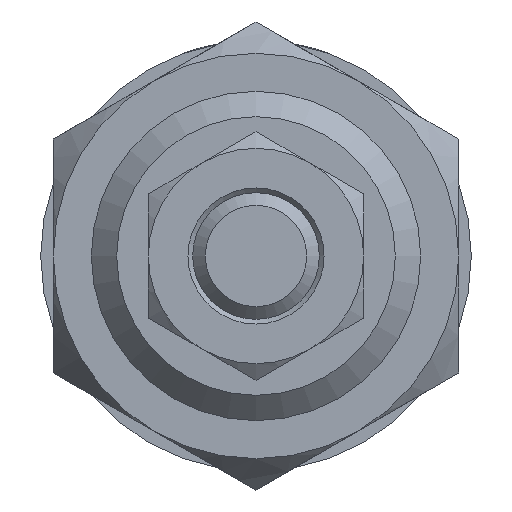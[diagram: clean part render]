
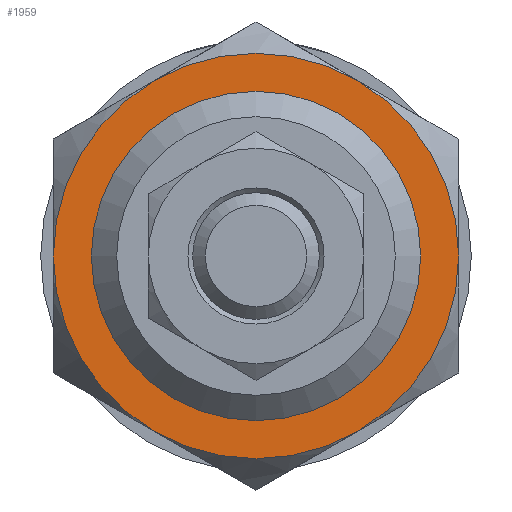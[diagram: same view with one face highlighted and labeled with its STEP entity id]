
A CAD part, front view. The second image highlights one B-rep face of the part: STEP entity #1959.
In plain terms, the highlighted planar face has unit normal (0, -1, 0).
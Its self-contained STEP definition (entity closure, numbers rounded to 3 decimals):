
#222=PLANE('',#2145);
#528=ORIENTED_EDGE('',*,*,#735,.T.);
#529=ORIENTED_EDGE('',*,*,#736,.T.);
#530=ORIENTED_EDGE('',*,*,#737,.T.);
#531=ORIENTED_EDGE('',*,*,#738,.T.);
#532=ORIENTED_EDGE('',*,*,#739,.T.);
#533=ORIENTED_EDGE('',*,*,#740,.T.);
#534=ORIENTED_EDGE('',*,*,#741,.T.);
#735=EDGE_CURVE('',#863,#863,#927,.T.);
#736=EDGE_CURVE('',#858,#862,#928,.F.);
#737=EDGE_CURVE('',#862,#864,#929,.F.);
#738=EDGE_CURVE('',#864,#845,#930,.F.);
#739=EDGE_CURVE('',#845,#850,#931,.F.);
#740=EDGE_CURVE('',#850,#854,#932,.F.);
#741=EDGE_CURVE('',#854,#858,#933,.F.);
#845=VERTEX_POINT('',#3006);
#850=VERTEX_POINT('',#3027);
#854=VERTEX_POINT('',#3046);
#858=VERTEX_POINT('',#3065);
#862=VERTEX_POINT('',#3084);
#863=VERTEX_POINT('',#3093);
#864=VERTEX_POINT('',#3096);
#927=CIRCLE('',#2146,12.75);
#928=CIRCLE('',#2147,16.);
#929=CIRCLE('',#2148,16.);
#930=CIRCLE('',#2149,16.);
#931=CIRCLE('',#2150,16.);
#932=CIRCLE('',#2151,16.);
#933=CIRCLE('',#2152,16.);
#1057=EDGE_LOOP('',(#528));
#1058=EDGE_LOOP('',(#529,#530,#531,#532,#533,#534));
#1195=FACE_BOUND('',#1057,.T.);
#1196=FACE_BOUND('',#1058,.T.);
#1959=ADVANCED_FACE('',(#1195,#1196),#222,.F.);
#2145=AXIS2_PLACEMENT_3D('',#3091,#2504,#2505);
#2146=AXIS2_PLACEMENT_3D('',#3092,#2506,#2507);
#2147=AXIS2_PLACEMENT_3D('',#3094,#2508,#2509);
#2148=AXIS2_PLACEMENT_3D('',#3095,#2510,#2511);
#2149=AXIS2_PLACEMENT_3D('',#3097,#2512,#2513);
#2150=AXIS2_PLACEMENT_3D('',#3098,#2514,#2515);
#2151=AXIS2_PLACEMENT_3D('',#3099,#2516,#2517);
#2152=AXIS2_PLACEMENT_3D('',#3100,#2518,#2519);
#2504=DIRECTION('',(0.,1.,0.));
#2505=DIRECTION('',(0.,0.,1.));
#2506=DIRECTION('',(0.,1.,0.));
#2507=DIRECTION('',(0.,0.,1.));
#2508=DIRECTION('',(0.,1.,0.));
#2509=DIRECTION('',(0.,0.,1.));
#2510=DIRECTION('',(0.,1.,0.));
#2511=DIRECTION('',(0.,0.,1.));
#2512=DIRECTION('',(0.,1.,0.));
#2513=DIRECTION('',(0.,0.,1.));
#2514=DIRECTION('',(0.,1.,0.));
#2515=DIRECTION('',(0.,0.,1.));
#2516=DIRECTION('',(0.,1.,0.));
#2517=DIRECTION('',(0.,0.,1.));
#2518=DIRECTION('',(0.,1.,0.));
#2519=DIRECTION('',(0.,0.,1.));
#3006=CARTESIAN_POINT('',(-8.,-8.,-13.856));
#3027=CARTESIAN_POINT('',(8.,-8.,-13.856));
#3046=CARTESIAN_POINT('',(16.,-8.,0.));
#3065=CARTESIAN_POINT('',(8.,-8.,13.856));
#3084=CARTESIAN_POINT('',(-8.,-8.,13.856));
#3091=CARTESIAN_POINT('',(0.,-8.,0.));
#3092=CARTESIAN_POINT('',(0.,-8.,0.));
#3093=CARTESIAN_POINT('',(0.,-8.,12.75));
#3094=CARTESIAN_POINT('',(0.,-8.,0.));
#3095=CARTESIAN_POINT('',(0.,-8.,0.));
#3096=CARTESIAN_POINT('',(-16.,-8.,0.));
#3097=CARTESIAN_POINT('',(0.,-8.,0.));
#3098=CARTESIAN_POINT('',(0.,-8.,0.));
#3099=CARTESIAN_POINT('',(0.,-8.,0.));
#3100=CARTESIAN_POINT('',(0.,-8.,0.));
